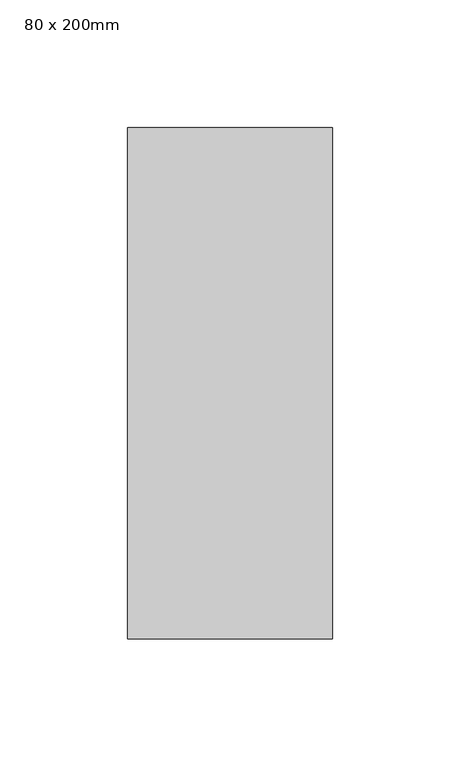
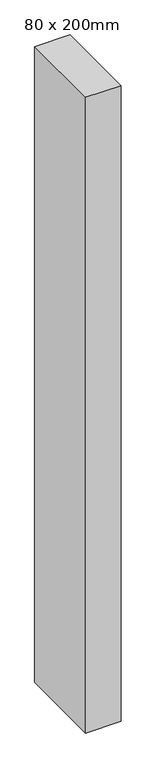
"""IFC4 building model written with IfcOpenShell, lengths in millimetres: member geometry, 矩形竖梃 : 80 x 200mm."""

import ifcopenshell
import ifcopenshell.guid

model = None  # the IFC model being written
_history = None  # IfcOwnerHistory: only IFC2X3 demands one
_inside = {}  # id of a spatial element -> (the spatial element, [elements in it])
_under = {}  # id of a project, library or spatial element -> (it, [spatial elements below it])
_declared = {}  # id of a project -> (the project, [libraries it declares])
_typed = {}  # id of a type object -> (the type object, [elements of that type])
_made_of = {}  # id of a material, layer set ... -> (it, [elements and type objects made of it])


def new_model(schema):
    """Start an empty IFC model of exactly this schema.

    Asked for "IFC4X3", IfcOpenShell would pick the latest addendum, in which some entities
    have other attributes; the version numbers below select the first issue.
    IFC2X3 requires an IfcOwnerHistory on every rooted entity: one is made here for all.
    """
    global model, _history
    if schema == "IFC4X3":
        model = ifcopenshell.file(schema_version=(4, 3, 0, 0))
    else:
        model = ifcopenshell.file(schema=schema)
    _inside.clear()
    _under.clear()
    _declared.clear()
    _typed.clear()
    _made_of.clear()
    _history = None
    if model.schema == "IFC2X3":
        org = make("IfcOrganization", Name="unknown")
        user = make(
            "IfcPersonAndOrganization",
            ThePerson=make("IfcPerson", FamilyName="unknown"),
            TheOrganization=org,
        )
        app = make(
            "IfcApplication",
            ApplicationDeveloper=org,
            Version="unknown",
            ApplicationFullName="unknown",
            ApplicationIdentifier="unknown",
        )
        _history = make(
            "IfcOwnerHistory",
            OwningUser=user,
            OwningApplication=app,
            ChangeAction="ADDED",
            CreationDate=0,
        )
    return model


def make(cls, **values):
    """One entity of the class cls with the attributes given. An attribute that is None is left unset."""
    return model.create_entity(
        cls, **{name: value for name, value in values.items() if value is not None}
    )


def rooted(cls, **values):
    """An entity with a GlobalId (a new one), such as an element, a storey or a relation."""
    return make(cls, GlobalId=ifcopenshell.guid.new(), OwnerHistory=_history, **values)


def si_unit(unit_type, name, prefix=None):
    """IfcSIUnit, for example si_unit("LENGTHUNIT", "METRE", prefix="MILLI")."""
    return make("IfcSIUnit", UnitType=unit_type, Prefix=prefix, Name=name)


def assignment(units):
    """IfcUnitAssignment: the units of a project."""
    return None if units is None else make("IfcUnitAssignment", Units=units)


def point(xyz):
    """IfcCartesianPoint."""
    return None if xyz is None else make("IfcCartesianPoint", Coordinates=xyz)


def direction(xyz):
    """IfcDirection."""
    return None if xyz is None else make("IfcDirection", DirectionRatios=xyz)


def frame(location, z_axis=None, x_axis=None):
    """IfcAxis2Placement3D, a coordinate frame: its origin and axes. An axis left out is left unset."""
    return make(
        "IfcAxis2Placement3D",
        Location=point(location),
        Axis=direction(z_axis),
        RefDirection=direction(x_axis),
    )


def origin():
    """The frame at (0, 0, 0) with its axes left unset."""
    return frame((0.0, 0.0, 0.0))


def place(relative_to, where):
    """IfcLocalPlacement: puts the frame where relative to a parent placement (None: the world)."""
    return make(
        "IfcLocalPlacement", PlacementRelTo=relative_to, RelativePlacement=where
    )


def context(
    kind, dimensions, precision=None, world=None, true_north=None, identifier=None
):
    """IfcGeometricRepresentationContext, for example the 3D "Model" context."""
    return make(
        "IfcGeometricRepresentationContext",
        ContextIdentifier=identifier,
        ContextType=kind,
        CoordinateSpaceDimension=dimensions,
        Precision=precision,
        WorldCoordinateSystem=world,
        TrueNorth=true_north,
    )


def project(units=None, contexts=None):
    """IfcProject with its units and contexts."""
    return rooted(
        "IfcProject",
        Name="project",
        RepresentationContexts=contexts,
        UnitsInContext=assignment(units),
    )


def spatial(cls, under=None, at=None, **own):
    """A site, building, storey or space (cls), placed at a placement, below another one or the project."""
    s = rooted(cls, ObjectPlacement=at, **own)
    if under is not None:
        _under.setdefault(under.id(), (under, []))[1].append(s)
    return s


def polyline(points):
    """IfcPolyline through the points."""
    return make("IfcPolyline", Points=[point(p) for p in points])


def outline(outer, holes=None, kind="AREA"):
    """IfcArbitraryClosedProfileDef: a profile drawn as a closed curve; with holes, ...WithVoids."""
    if holes is None:
        return make("IfcArbitraryClosedProfileDef", ProfileType=kind, OuterCurve=outer)
    return make(
        "IfcArbitraryProfileDefWithVoids",
        ProfileType=kind,
        OuterCurve=outer,
        InnerCurves=holes,
    )


def extrude(swept, where, along, depth):
    """IfcExtrudedAreaSolid: the profile swept, set in the frame where, extruded along a direction by depth."""
    return make(
        "IfcExtrudedAreaSolid",
        SweptArea=swept,
        Position=where,
        ExtrudedDirection=direction(along),
        Depth=depth,
    )


def shape(context_of_items, identifier, shape_type, items):
    """IfcShapeRepresentation: the items that make up one representation, for example the "Body"."""
    return make(
        "IfcShapeRepresentation",
        ContextOfItems=context_of_items,
        RepresentationIdentifier=identifier,
        RepresentationType=shape_type,
        Items=items,
    )


def source(mapping_origin, context_of_items, identifier, shape_type, items):
    """IfcRepresentationMap: a shape defined once, which mapped items show again and again."""
    return make(
        "IfcRepresentationMap",
        MappingOrigin=mapping_origin,
        MappedRepresentation=shape(context_of_items, identifier, shape_type, items),
    )


def transform(
    local_origin,
    x_axis=None,
    y_axis=None,
    z_axis=None,
    scale=None,
    scale2=None,
    scale3=None,
    uniform=True,
):
    """IfcCartesianTransformationOperator3D, or its non-uniform kind. x_axis, y_axis, z_axis: its Axis1, 2, 3."""
    if uniform:
        return make(
            "IfcCartesianTransformationOperator3D",
            Axis1=direction(x_axis),
            Axis2=direction(y_axis),
            LocalOrigin=point(local_origin),
            Scale=scale,
            Axis3=direction(z_axis),
        )
    return make(
        "IfcCartesianTransformationOperator3DnonUniform",
        Axis1=direction(x_axis),
        Axis2=direction(y_axis),
        LocalOrigin=point(local_origin),
        Scale=scale,
        Axis3=direction(z_axis),
        Scale2=scale2,
        Scale3=scale3,
    )


def mapped(mapping_source, mapping_target):
    """IfcMappedItem: shows the shape of a source again, moved by a transform."""
    return make(
        "IfcMappedItem", MappingSource=mapping_source, MappingTarget=mapping_target
    )


def made_of(thing, what):
    """Note that an element or type object is made of a material, layer set ...; save() writes the relation."""
    if what is not None:
        _made_of.setdefault(what.id(), (what, []))[1].append(thing)
    return thing


def element(
    cls,
    number,
    at=None,
    inside=None,
    cuts=None,
    type_object=None,
    material=None,
    context=None,
    identifier="Body",
    shape_type=None,
    held_by="IfcProductDefinitionShape",
    body=None,
    shapes=None,
    **own,
):
    """One element of the class cls, such as IfcWall. Its Tag is "e" and its number.

    at: its placement. inside: the storey or other place that contains it. cuts: it is an
    opening in that element (IfcRelVoidsElement). A single representation is given by context,
    identifier, shape_type and body (its items); several are given by shapes. held_by: the class
    of the entity that holds the representations. save() writes the other relations.
    """
    e = rooted(cls, Tag="e%d" % number, ObjectPlacement=at, **own)
    if body is not None:
        shapes = [shape(context, identifier, shape_type, body)]
    if shapes is not None:
        e.Representation = make(held_by, Representations=shapes)
    if inside is not None:
        _inside.setdefault(inside.id(), (inside, []))[1].append(e)
    if cuts is not None:
        rooted(
            "IfcRelVoidsElement", RelatingBuildingElement=cuts, RelatedOpeningElement=e
        )
    if type_object is not None:
        _typed.setdefault(type_object.id(), (type_object, []))[1].append(e)
    return made_of(e, material)


def aggregate(whole, parts):
    """IfcRelAggregates: a whole, such as a stair, and the parts it consists of."""
    return rooted("IfcRelAggregates", RelatingObject=whole, RelatedObjects=parts)


def save(model, path):
    """Write the relations noted so far, then the file.

    IfcRelAggregates (storeys below a building ...), IfcRelContainedInSpatialStructure (elements
    in a storey), IfcRelDefinesByType, IfcRelAssociatesMaterial and IfcRelDeclares: one each for
    every whole, place, type object, material and project.
    """
    for whole, parts in _under.values():
        aggregate(whole, parts)
    for where, things in _inside.values():
        rooted(
            "IfcRelContainedInSpatialStructure",
            RelatedElements=things,
            RelatingStructure=where,
        )
    for kind, things in _typed.values():
        rooted("IfcRelDefinesByType", RelatedObjects=things, RelatingType=kind)
    for what, things in _made_of.values():
        rooted("IfcRelAssociatesMaterial", RelatedObjects=things, RelatingMaterial=what)
    for by, libraries in _declared.values():
        rooted("IfcRelDeclares", RelatingContext=by, RelatedDefinitions=libraries)
    model.write(path)


def member_80_x_200mm_c01ebbc2(model_context):
    return source(origin(), model_context, "Body", "SweptSolid", [
        extrude(outline(polyline([(0.0, 100.0), (0.0, -100.0), (-80.0, -100.0), (-80.0, 100.0), (0.0, 100.0)])), frame((0.0, 0.0, -1520.0000003), z_axis=(0.0, 0.0, 1.0), x_axis=(1.0, 0.0, 0.0)), (0.0, 0.0, 1.0), 1520.0000003),
    ])


if __name__ == "__main__":
    model = new_model("IFC4")
    model_context = context("Model", 3, world=origin())
    ifc_project = project(units=[si_unit("LENGTHUNIT", "METRE", prefix="MILLI")], contexts=[model_context])
    site = spatial("IfcSite", under=ifc_project)
    building = spatial("IfcBuilding", under=site)
    placement = place(None, origin())
    member_80_x_200mm_shape = member_80_x_200mm_c01ebbc2(model_context)
    element("IfcMember", 1, ObjectType="矩形竖梃 : 80 x 200mm", at=placement, inside=building, context=model_context, shape_type="MappedRepresentation", body=[
        mapped(member_80_x_200mm_shape, transform((0.0, 0.0, 0.0), x_axis=(1.0, 0.0, 0.0), y_axis=(0.0, 1.0, 0.0), z_axis=(0.0, 0.0, 1.0))),
    ])
    save(model, "model.ifc")
